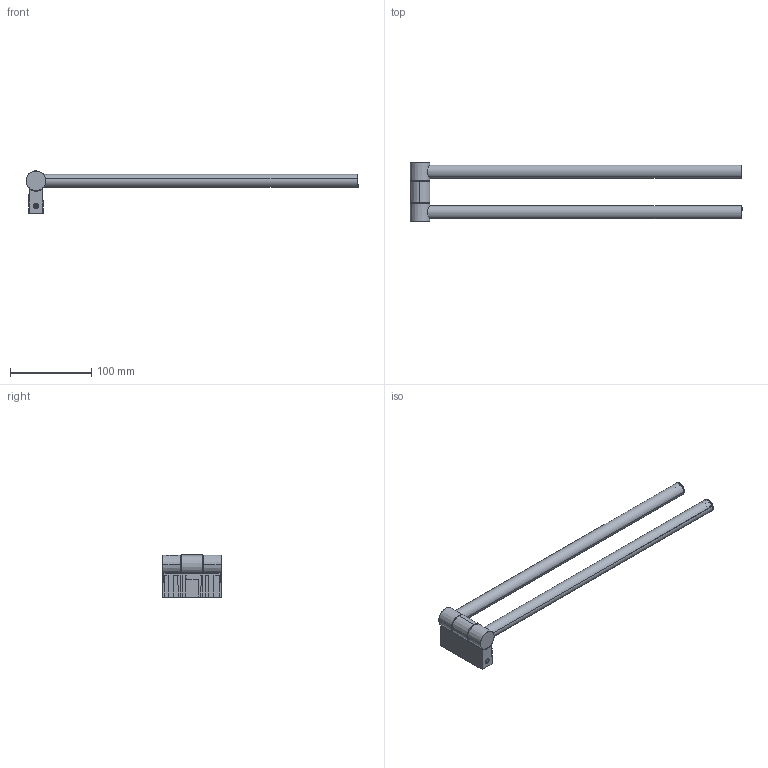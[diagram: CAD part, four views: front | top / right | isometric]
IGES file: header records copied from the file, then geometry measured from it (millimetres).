
Start section: SolidWorks IGES file using analytic representation for surfaces
Global section: file name: G:\4- VARIOS\9 - Web Files\PROJECT\251##75-W.IGS; native system: SolidWorks 2016; preprocessor: SolidWorks 2016; author: delcri01; date: 211229.123849; units: millimetre
Bounding box: 407.74 x 72.53 x 51.75 mm (x, y, z)
Surface area: 103492.1 mm2 (no closed solid volume)
Topology: 0 solids, 0 shells, 662 faces, 8609 edges, 8599 vertices
Faces by surface type: bspline 353, revolution 309
